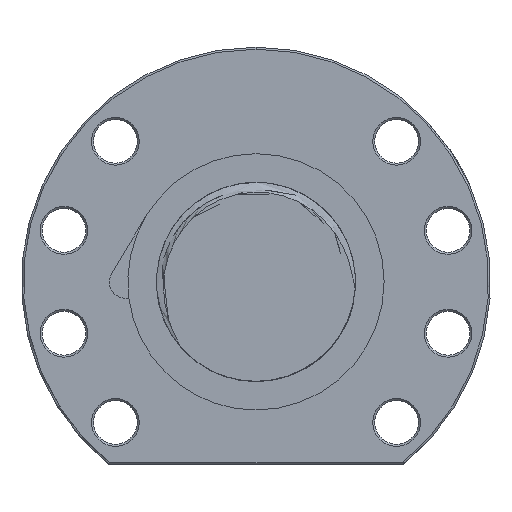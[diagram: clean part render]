
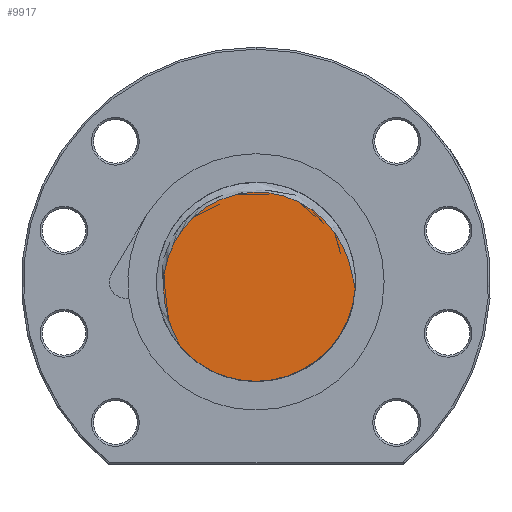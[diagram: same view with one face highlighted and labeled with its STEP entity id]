
A CAD part, left-side view. The second image highlights one B-rep face of the part: STEP entity #9917.
In plain terms, the highlighted planar face has unit normal (-1, 0, 0).
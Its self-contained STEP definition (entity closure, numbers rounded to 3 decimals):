
#76 = CARTESIAN_POINT ( 'NONE',  ( -128., 0., -25. ) ) ;
#3845 = EDGE_CURVE ( 'NONE', #4088, #3877, #9516, .T. ) ;
#3877 = VERTEX_POINT ( 'NONE', #10240 ) ;
#4088 = VERTEX_POINT ( 'NONE', #76 ) ;
#9512 = DIRECTION ( 'NONE',  ( 0., 1., 0. ) ) ;
#9513 = DIRECTION ( 'NONE',  ( 1., 0., 0. ) ) ;
#9514 = CARTESIAN_POINT ( 'NONE',  ( -128., 0., 0. ) ) ;
#9515 = AXIS2_PLACEMENT_3D ( 'NONE', #9514, #9513, #9512 ) ;
#9516 = CIRCLE ( 'NONE', #9515, 25. ) ;
#9917 = ADVANCED_FACE ( 'NONE', ( #18095 ), #18362, .F. ) ;
#9918 = ORIENTED_EDGE ( 'NONE', *, *, #9986, .F. ) ;
#9919 = ORIENTED_EDGE ( 'NONE', *, *, #9920, .T. ) ;
#9920 = EDGE_CURVE ( 'NONE', #9969, #3877, #18318, .T. ) ;
#9921 = ORIENTED_EDGE ( 'NONE', *, *, #3845, .F. ) ;
#9938 = EDGE_LOOP ( 'NONE', ( #9918, #9919, #9921 ) ) ;
#9969 = VERTEX_POINT ( 'NONE', #19988 ) ;
#9986 = EDGE_CURVE ( 'NONE', #9969, #4088, #21238, .T. ) ;
#10240 = CARTESIAN_POINT ( 'NONE',  ( -128., 19.232, -15.973 ) ) ;
#18078 = CARTESIAN_POINT ( 'NONE',  ( -128., 19.232, -15.973 ) ) ;
#18079 = CARTESIAN_POINT ( 'NONE',  ( -128., 19.425, -15.539 ) ) ;
#18081 = CARTESIAN_POINT ( 'NONE',  ( -128., 19.634, -15.114 ) ) ;
#18083 = CARTESIAN_POINT ( 'NONE',  ( -128., 20.045, -14.259 ) ) ;
#18085 = CARTESIAN_POINT ( 'NONE',  ( -128., 20.249, -13.831 ) ) ;
#18087 = CARTESIAN_POINT ( 'NONE',  ( -128., 20.841, -12.537 ) ) ;
#18089 = CARTESIAN_POINT ( 'NONE',  ( -128., 21.208, -11.663 ) ) ;
#18091 = CARTESIAN_POINT ( 'NONE',  ( -128., 21.862, -9.887 ) ) ;
#18093 = CARTESIAN_POINT ( 'NONE',  ( -128., 22.15, -8.98 ) ) ;
#18095 = FACE_OUTER_BOUND ( 'NONE', #9938, .T. ) ;
#18193 = CARTESIAN_POINT ( 'NONE',  ( -128., 22.63, -7.153 ) ) ;
#18195 = CARTESIAN_POINT ( 'NONE',  ( -128., 22.823, -6.233 ) ) ;
#18197 = CARTESIAN_POINT ( 'NONE',  ( -128., 23.11, -4.38 ) ) ;
#18199 = CARTESIAN_POINT ( 'NONE',  ( -128., 23.203, -3.446 ) ) ;
#18201 = CARTESIAN_POINT ( 'NONE',  ( -128., 23.284, -1.564 ) ) ;
#18203 = CARTESIAN_POINT ( 'NONE',  ( -128., 23.272, -0.61 ) ) ;
#18205 = CARTESIAN_POINT ( 'NONE',  ( -128., 23.077, 2.215 ) ) ;
#18207 = CARTESIAN_POINT ( 'NONE',  ( -128., 22.74, 4.06 ) ) ;
#18209 = CARTESIAN_POINT ( 'NONE',  ( -128., 21.91, 6.766 ) ) ;
#18210 = CARTESIAN_POINT ( 'NONE',  ( -128., 21.576, 7.661 ) ) ;
#18213 = CARTESIAN_POINT ( 'NONE',  ( -128., 20.813, 9.384 ) ) ;
#18215 = CARTESIAN_POINT ( 'NONE',  ( -128., 20.383, 10.218 ) ) ;
#18216 = CARTESIAN_POINT ( 'NONE',  ( -128., 19.427, 11.832 ) ) ;
#18219 = CARTESIAN_POINT ( 'NONE',  ( -128., 18.902, 12.612 ) ) ;
#18221 = CARTESIAN_POINT ( 'NONE',  ( -128., 18.04, 13.74 ) ) ;
#18223 = CARTESIAN_POINT ( 'NONE',  ( -128., 17.739, 14.11 ) ) ;
#18225 = CARTESIAN_POINT ( 'NONE',  ( -128., 17.121, 14.826 ) ) ;
#18227 = CARTESIAN_POINT ( 'NONE',  ( -128., 16.802, 15.173 ) ) ;
#18229 = CARTESIAN_POINT ( 'NONE',  ( -128., 15.817, 16.183 ) ) ;
#18231 = CARTESIAN_POINT ( 'NONE',  ( -128., 15.123, 16.813 ) ) ;
#18233 = CARTESIAN_POINT ( 'NONE',  ( -128., 14.024, 17.695 ) ) ;
#18235 = CARTESIAN_POINT ( 'NONE',  ( -128., 13.649, 17.979 ) ) ;
#18236 = CARTESIAN_POINT ( 'NONE',  ( -128., 12.878, 18.525 ) ) ;
#18238 = CARTESIAN_POINT ( 'NONE',  ( -128., 12.482, 18.788 ) ) ;
#18240 = CARTESIAN_POINT ( 'NONE',  ( -128., 10.468, 20.04 ) ) ;
#18242 = CARTESIAN_POINT ( 'NONE',  ( -128., 8.766, 20.833 ) ) ;
#18244 = CARTESIAN_POINT ( 'NONE',  ( -128., 6.528, 21.564 ) ) ;
#18246 = CARTESIAN_POINT ( 'NONE',  ( -128., 6.074, 21.697 ) ) ;
#18248 = CARTESIAN_POINT ( 'NONE',  ( -128., 5.155, 21.935 ) ) ;
#18250 = CARTESIAN_POINT ( 'NONE',  ( -128., 4.692, 22.04 ) ) ;
#18252 = CARTESIAN_POINT ( 'NONE',  ( -128., 3.302, 22.31 ) ) ;
#18254 = CARTESIAN_POINT ( 'NONE',  ( -128., 2.371, 22.433 ) ) ;
#18256 = CARTESIAN_POINT ( 'NONE',  ( -128., 0.502, 22.569 ) ) ;
#18258 = CARTESIAN_POINT ( 'NONE',  ( -128., -0.437, 22.581 ) ) ;
#18260 = CARTESIAN_POINT ( 'NONE',  ( -128., -1.852, 22.514 ) ) ;
#18262 = CARTESIAN_POINT ( 'NONE',  ( -128., -2.325, 22.478 ) ) ;
#18264 = CARTESIAN_POINT ( 'NONE',  ( -128., -3.269, 22.376 ) ) ;
#18265 = CARTESIAN_POINT ( 'NONE',  ( -128., -3.737, 22.311 ) ) ;
#18267 = CARTESIAN_POINT ( 'NONE',  ( -128., -5.131, 22.075 ) ) ;
#18269 = CARTESIAN_POINT ( 'NONE',  ( -128., -6.046, 21.861 ) ) ;
#18271 = CARTESIAN_POINT ( 'NONE',  ( -128., -7.848, 21.325 ) ) ;
#18273 = CARTESIAN_POINT ( 'NONE',  ( -128., -8.737, 21.002 ) ) ;
#18276 = CARTESIAN_POINT ( 'NONE',  ( -128., -11.352, 19.872 ) ) ;
#18278 = CARTESIAN_POINT ( 'NONE',  ( -128., -12.978, 18.929 ) ) ;
#18280 = CARTESIAN_POINT ( 'NONE',  ( -128., -15.244, 17.23 ) ) ;
#18282 = CARTESIAN_POINT ( 'NONE',  ( -128., -15.972, 16.613 ) ) ;
#18284 = CARTESIAN_POINT ( 'NONE',  ( -128., -17.337, 15.313 ) ) ;
#18286 = CARTESIAN_POINT ( 'NONE',  ( -128., -17.978, 14.628 ) ) ;
#18288 = CARTESIAN_POINT ( 'NONE',  ( -128., -19.179, 13.192 ) ) ;
#18290 = CARTESIAN_POINT ( 'NONE',  ( -128., -19.741, 12.44 ) ) ;
#18292 = CARTESIAN_POINT ( 'NONE',  ( -128., -20.783, 10.87 ) ) ;
#18293 = CARTESIAN_POINT ( 'NONE',  ( -128., -21.266, 10.048 ) ) ;
#18295 = CARTESIAN_POINT ( 'NONE',  ( -128., -22.132, 8.368 ) ) ;
#18297 = CARTESIAN_POINT ( 'NONE',  ( -128., -22.518, 7.507 ) ) ;
#18299 = CARTESIAN_POINT ( 'NONE',  ( -128., -23.201, 5.748 ) ) ;
#18302 = CARTESIAN_POINT ( 'NONE',  ( -128., -23.5, 4.847 ) ) ;
#18304 = CARTESIAN_POINT ( 'NONE',  ( -128., -24.014, 3.023 ) ) ;
#18306 = CARTESIAN_POINT ( 'NONE',  ( -128., -24.23, 2.101 ) ) ;
#18308 = CARTESIAN_POINT ( 'NONE',  ( -128., -24.511, 0.709 ) ) ;
#18310 = CARTESIAN_POINT ( 'NONE',  ( -128., -24.597, 0.244 ) ) ;
#18311 = CARTESIAN_POINT ( 'NONE',  ( -128., -24.767, -0.688 ) ) ;
#18313 = CARTESIAN_POINT ( 'NONE',  ( -128., -24.849, -1.155 ) ) ;
#18315 = CARTESIAN_POINT ( 'NONE',  ( -128., -24.948, -1.617 ) ) ;
#18318 = B_SPLINE_CURVE_WITH_KNOTS ( 'NONE', 3,
 ( #18315, #18313, #18311, #18310, #18308, #18306, #18304, #18302, #18299, #18297, #18295, #18293, #18292, #18290, #18288, #18286, #18284, #18282, #18280, #18278, #18276, #18273, #18271, #18269, #18267, #18265, #18264, #18262, #18260, #18258, #18256, #18254, #18252, #18250, #18248, #18246, #18244, #18242, #18240, #18238, #18236, #18235, #18233, #18231, #18229, #18227, #18225, #18223, #18221, #18219, #18216, #18215, #18213, #18210, #18209, #18207, #18205, #18203, #18201, #18199, #18197, #18195, #18193, #18093, #18091, #18089, #18087, #18085, #18083, #18081, #18079, #18078 ),
 .UNSPECIFIED., .F., .F.,
 ( 4, 2, 2, 2, 2, 2, 2, 2, 2, 2, 2, 2, 2, 2, 2, 2, 2, 2, 2, 2, 2, 2, 2, 2, 2, 2, 2, 2, 2, 2, 2, 2, 2, 2, 2, 4 ),
 ( 0.001, 0.003, 0.004, 0.007, 0.01, 0.012, 0.015, 0.018, 0.021, 0.024, 0.029, 0.032, 0.035, 0.037, 0.038, 0.041, 0.044, 0.045, 0.046, 0.052, 0.054, 0.055, 0.058, 0.059, 0.061, 0.063, 0.066, 0.069, 0.075, 0.078, 0.08, 0.083, 0.086, 0.089, 0.09, 0.092 ),
 .UNSPECIFIED. ) ;
#18334 = DIRECTION ( 'NONE',  ( 0., 0., -1. ) ) ;
#18336 = DIRECTION ( 'NONE',  ( 1., 0., 0. ) ) ;
#18337 = AXIS2_PLACEMENT_3D ( 'NONE', #18372, #18336, #18334 ) ;
#18362 = PLANE ( 'NONE',  #18337 ) ;
#18372 = CARTESIAN_POINT ( 'NONE',  ( -128., 0., 0. ) ) ;
#19988 = CARTESIAN_POINT ( 'NONE',  ( -128., -24.948, -1.617 ) ) ;
#21231 = DIRECTION ( 'NONE',  ( 0., 1., 0. ) ) ;
#21233 = DIRECTION ( 'NONE',  ( 1., 0., 0. ) ) ;
#21234 = CARTESIAN_POINT ( 'NONE',  ( -128., 0., 0. ) ) ;
#21236 = AXIS2_PLACEMENT_3D ( 'NONE', #21234, #21233, #21231 ) ;
#21238 = CIRCLE ( 'NONE', #21236, 25. ) ;
